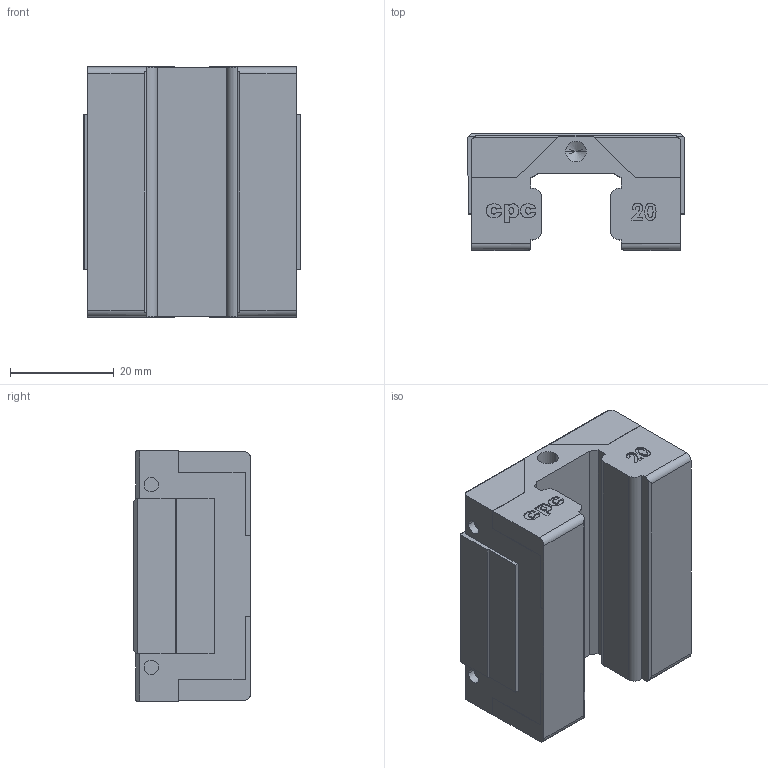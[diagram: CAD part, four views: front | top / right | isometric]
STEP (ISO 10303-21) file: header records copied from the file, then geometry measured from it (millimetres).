
FILE_DESCRIPTION (( 'STEP AP203' ), '1' );
FILE_NAME ('AR20MS.STEP', '2009-08-03T10:39:36', ( 'cpc' ), ( '' ), 'SwSTEP 2.0', 'SolidWorks 2007', '' );
FILE_SCHEMA (( 'CONFIG_CONTROL_DESIGN' ));
Length unit declared in the file: millimetre
Products named in the file (1): AR20MS
Bounding box: 42 x 22.5 x 48.2 mm (x, y, z)
Volume: 32930.4 mm3; surface area: 9508.7 mm2
Topology: 1 solids, 1 shells, 250 faces, 672 edges, 440 vertices
Faces by surface type: plane 118, bspline 90, cylinder 30, cone 12
Entity records: 12597 total; most frequent: CARTESIAN_POINT 6897, ORIENTED_EDGE 1328, DIRECTION 854, EDGE_CURVE 664, VERTEX_POINT 440, LINE 412, VECTOR 412, EDGE_LOOP 274
